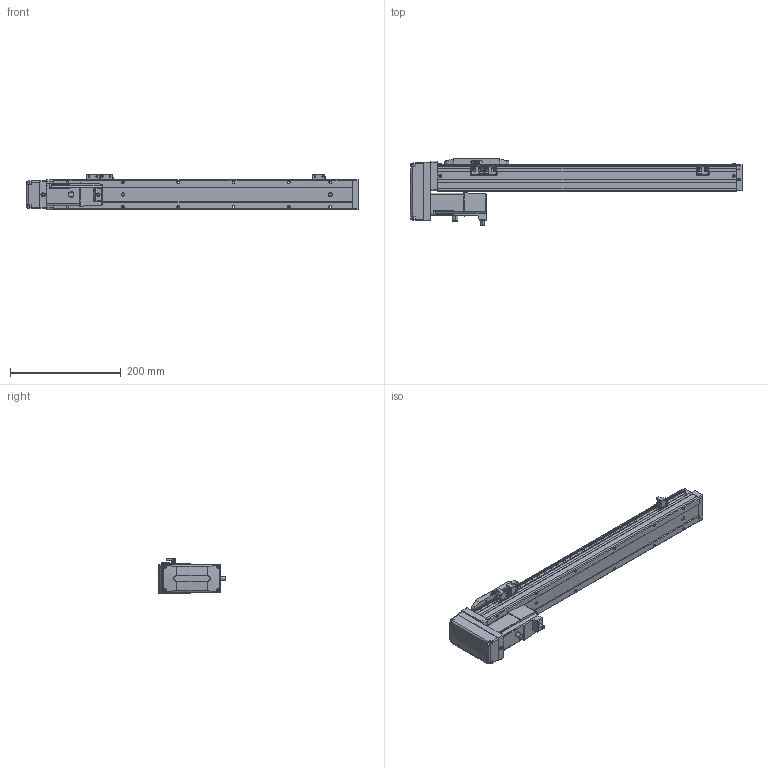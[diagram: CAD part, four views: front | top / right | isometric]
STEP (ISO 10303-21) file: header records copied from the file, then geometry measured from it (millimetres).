
FILE_DESCRIPTION (( 'STEP AP203' ), '1' );
FILE_NAME ('CTH5-L10-S400-BM-C10(¼ò).STEP', '2023-02-04T02:22:08', ( '' ), ( '' ), 'SwSTEP 2.0', 'SolidWorks 2018', '' );
FILE_SCHEMA (( 'CONFIG_CONTROL_DESIGN' ));
Length unit declared in the file: millimetre
Products named in the file (22): M3｡｣; CTH5耜晚蹟隊-1; PM-Y45; CTH嫖萇羲壽假蚾啣; CTH5-BL-T10_body5; 葩璃 蚾饜极13^CTH8-L10-S50-BM-C40(潠)1; 内六角圆柱头螺钉M3-2; CTH100W假蚾啣; CTH5菁釱-L540; CTH5ヶ耜啣(潠); CTH5耜蚾蟀諉啣(潠); CTH5賑怢; 嫖萇羲壽郪磁1; CTH5覜茼え; T10-p1; CTH5耜晚蹟隊; CTH5-L10-S400-BM-C10(潠); hex nuts, style 1-grades ab gb_GB_FASTENER_NUT_SNAB1 M3-N; CTH5耜蚾欶; CTH5綴耜啣; 葩璃 蚾饜极16^CTH5-L10-S400-BM-C10(潠); 100W萇儂
Assembly tree (37 placements, depth 4):
  CTH5-L10-S400-BM-C10(潠)
    CTH5綴耜啣
    CTH5賑怢
    CTH5ヶ耜啣(潠)
    CTH5菁釱-L540
    CTH5耜晚蹟隊  x2
    嫖萇羲壽郪磁1  x2
      CTH嫖萇羲壽假蚾啣
      PM-Y45
      M3｡｣
      内六角圆柱头螺钉M3-2
      hex nuts, style 1-grades ab gb_GB_FASTENER_NUT_SNAB1 M3-N
    CTH5覜茼え
    葩璃 蚾饜极13^CTH8-L10-S50-BM-C40(潠)1
      CTH嫖萇羲壽假蚾啣
      PM-Y45
      内六角圆柱头螺钉M3-2  x2
      M3｡｣  x2
      hex nuts, style 1-grades ab gb_GB_FASTENER_NUT_SNAB1 M3-N  x2
    CTH5耜晚蹟隊-1  x4
    葩璃 蚾饜极16^CTH5-L10-S400-BM-C10(潠)
      CTH5耜蚾蟀諉啣(潠)
      CTH5耜蚾欶
        CTH5-BL-T10_body5
      100W萇儂
        T10-p1
      CTH100W假蚾啣
Bounding box: 600 x 122.21 x 63.3 mm (x, y, z)
Volume: 1558589.3 mm3; surface area: 233134.7 mm2
Topology: 39 solids, 39 shells, 1595 faces, 3999 edges, 2584 vertices
Faces by surface type: plane 890, cylinder 464, cone 183, torus 40, bspline 18
Entity records: 37069 total; most frequent: CARTESIAN_POINT 6864, DIRECTION 5843, ORIENTED_EDGE 5622, EDGE_CURVE 2811, AXIS2_PLACEMENT_3D 2006, VECTOR 1831, LINE 1831, VERTEX_POINT 1812
